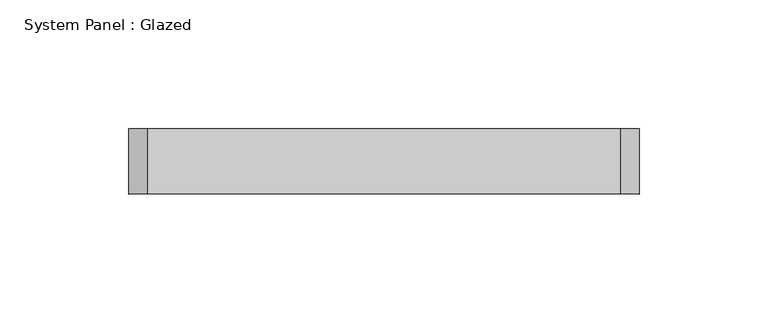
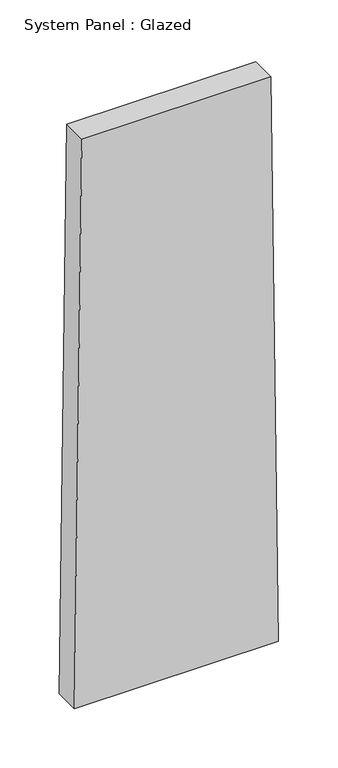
"""IFC4 building model written with IfcOpenShell, lengths in millimetres: plate geometry, System Panel : Glazed."""

from ifc_helpers import new_model, si_unit, frame, origin, place, context, project, spatial, polyline, outline, extrude, source, transform, mapped, element, save


def system_panel_glazed_a1cfa193(model_context):
    return source(origin(), model_context, "Body", "SweptSolid", [
        extrude(outline(polyline([(0.0, -99.3785733), (0.0, 99.3785733), (584.1536758, 92.1766553), (584.1536758, -92.1766553), (0.0, -99.3785733)])), frame((0.0, 19.05, 0.0), z_axis=(0.0, 1.0, 0.0), x_axis=(0.0, 0.0, 1.0)), (0.0, 0.0, 1.0), 25.4),
    ])


if __name__ == "__main__":
    model = new_model("IFC4")
    model_context = context("Model", 3, world=origin())
    ifc_project = project(units=[si_unit("LENGTHUNIT", "METRE", prefix="MILLI")], contexts=[model_context])
    site = spatial("IfcSite", under=ifc_project)
    building = spatial("IfcBuilding", under=site)
    placement = place(None, origin())
    system_panel_glazed_shape = system_panel_glazed_a1cfa193(model_context)
    element("IfcPlate", 1, ObjectType="System Panel : Glazed", at=placement, inside=building, context=model_context, shape_type="MappedRepresentation", body=[
        mapped(system_panel_glazed_shape, transform((0.0, 0.0, 0.0), x_axis=(1.0, 0.0, 0.0), y_axis=(0.0, 1.0, 0.0), z_axis=(0.0, 0.0, 1.0))),
    ])
    save(model, "model.ifc")
